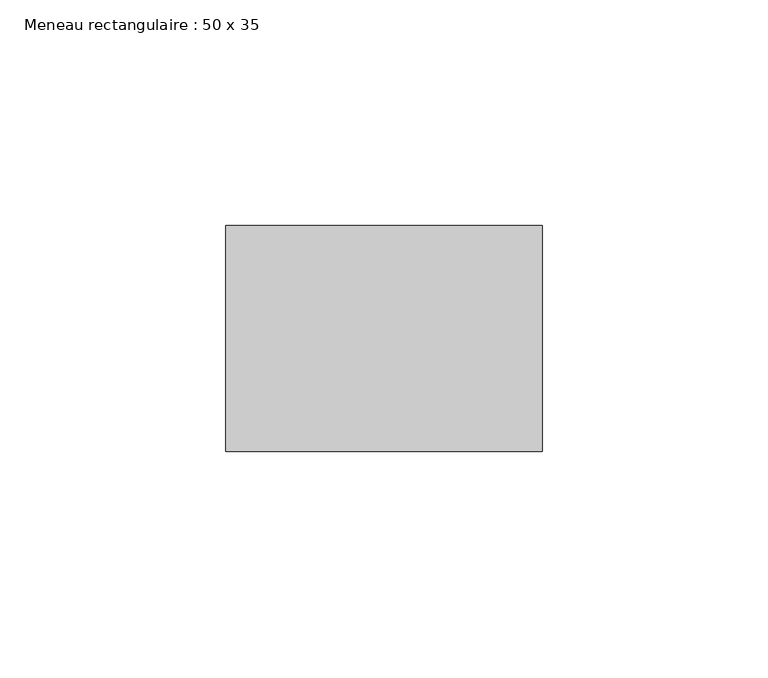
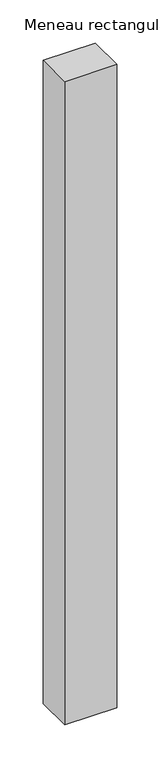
"""IFC4 building model written with IfcOpenShell, lengths in millimetres: member geometry, Meneau rectangulaire : 50 x 35."""

from ifc_helpers import new_model, si_unit, frame, origin, place, context, project, spatial, polyline, outline, extrude, source, transform, mapped, element, save


def meneau_rectangulaire_50_x_35_78d923dd(model_context):
    return source(origin(), model_context, "Body", "SweptSolid", [
        extrude(outline(polyline([(0.0, 0.0), (0.0, -50.0), (-70.0, -50.0), (-70.0, 0.0), (0.0, 0.0)])), frame((0.0, 0.0, -912.5497655), z_axis=(0.0, 0.0, 1.0), x_axis=(1.0, 0.0, 0.0)), (0.0, 0.0, 1.0), 912.5497655),
    ])


if __name__ == "__main__":
    model = new_model("IFC4")
    model_context = context("Model", 3, world=origin())
    ifc_project = project(units=[si_unit("LENGTHUNIT", "METRE", prefix="MILLI")], contexts=[model_context])
    site = spatial("IfcSite", under=ifc_project)
    building = spatial("IfcBuilding", under=site)
    placement = place(None, origin())
    meneau_rectangulaire_50_x_35_shape = meneau_rectangulaire_50_x_35_78d923dd(model_context)
    element("IfcMember", 1, ObjectType="Meneau rectangulaire : 50 x 35", at=placement, inside=building, context=model_context, shape_type="MappedRepresentation", body=[
        mapped(meneau_rectangulaire_50_x_35_shape, transform((0.0, 0.0, 0.0), x_axis=(1.0, 0.0, 0.0), y_axis=(0.0, 1.0, 0.0), z_axis=(0.0, 0.0, 1.0))),
    ])
    save(model, "model.ifc")
